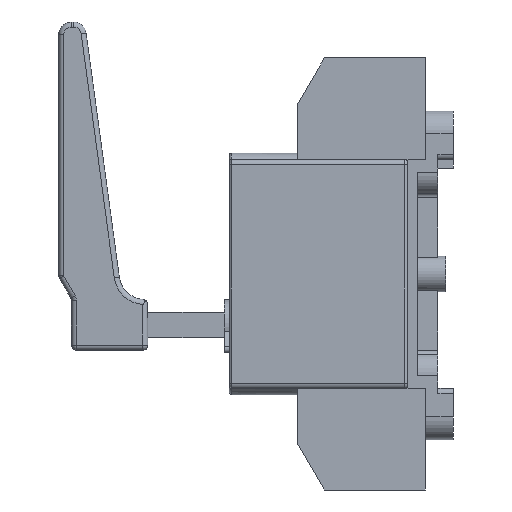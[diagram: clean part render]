
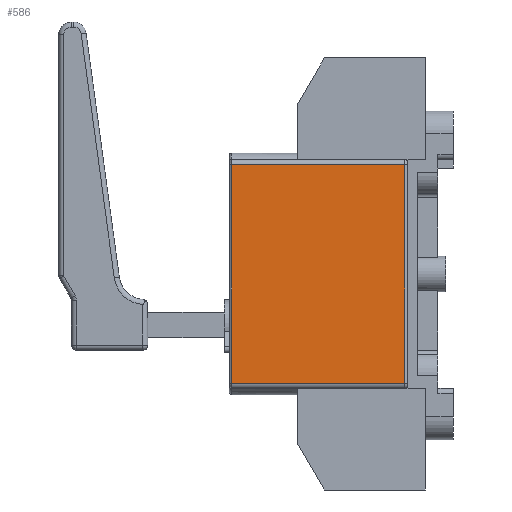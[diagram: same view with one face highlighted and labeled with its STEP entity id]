
A CAD part, left-side view. The second image highlights one B-rep face of the part: STEP entity #586.
In plain terms, the highlighted planar face has unit normal (-1, 0, 0).
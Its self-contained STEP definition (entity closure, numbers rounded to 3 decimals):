
#152=PLANE('',#6752);
#586=ADVANCED_FACE('',(#1016),#152,.F.);
#1016=FACE_OUTER_BOUND('',#1406,.T.);
#1406=EDGE_LOOP('',(#2885,#2886,#2887,#2888));
#2885=ORIENTED_EDGE('',*,*,#4891,.F.);
#2886=ORIENTED_EDGE('',*,*,#4881,.T.);
#2887=ORIENTED_EDGE('',*,*,#4892,.T.);
#2888=ORIENTED_EDGE('',*,*,#4585,.T.);
#3933=VERTEX_POINT('',#9458);
#3935=VERTEX_POINT('',#9464);
#4125=VERTEX_POINT('',#10131);
#4128=VERTEX_POINT('',#10161);
#4585=EDGE_CURVE('',#3933,#3935,#5418,.T.);
#4881=EDGE_CURVE('',#4125,#4128,#5571,.T.);
#4891=EDGE_CURVE('',#4125,#3935,#5575,.T.);
#4892=EDGE_CURVE('',#4128,#3933,#5576,.T.);
#5418=LINE('',#9465,#5978);
#5571=LINE('',#10162,#6131);
#5575=LINE('',#10207,#6135);
#5576=LINE('',#10209,#6136);
#5978=VECTOR('',#7463,1.);
#6131=VECTOR('',#8114,1.);
#6135=VECTOR('',#8134,1.);
#6136=VECTOR('',#8137,1.);
#6752=AXIS2_PLACEMENT_3D('',#10210,#8138,#8139);
#7463=DIRECTION('',(0.,0.,1.));
#8114=DIRECTION('',(0.,0.,-1.));
#8134=DIRECTION('',(0.,-1.,0.));
#8137=DIRECTION('',(0.,-1.,0.));
#8138=DIRECTION('',(1.,0.,0.));
#8139=DIRECTION('',(0.,0.,-1.));
#9458=CARTESIAN_POINT('',(-41.,1.,-43.));
#9464=CARTESIAN_POINT('',(-41.,1.,43.));
#9465=CARTESIAN_POINT('',(-41.,1.,-43.));
#10131=CARTESIAN_POINT('',(-41.,69.,43.));
#10161=CARTESIAN_POINT('',(-41.,69.,-43.));
#10162=CARTESIAN_POINT('',(-41.,69.,-43.));
#10207=CARTESIAN_POINT('',(-41.,35.,43.));
#10209=CARTESIAN_POINT('',(-41.,35.,-43.));
#10210=CARTESIAN_POINT('',(-41.,35.,-43.));
